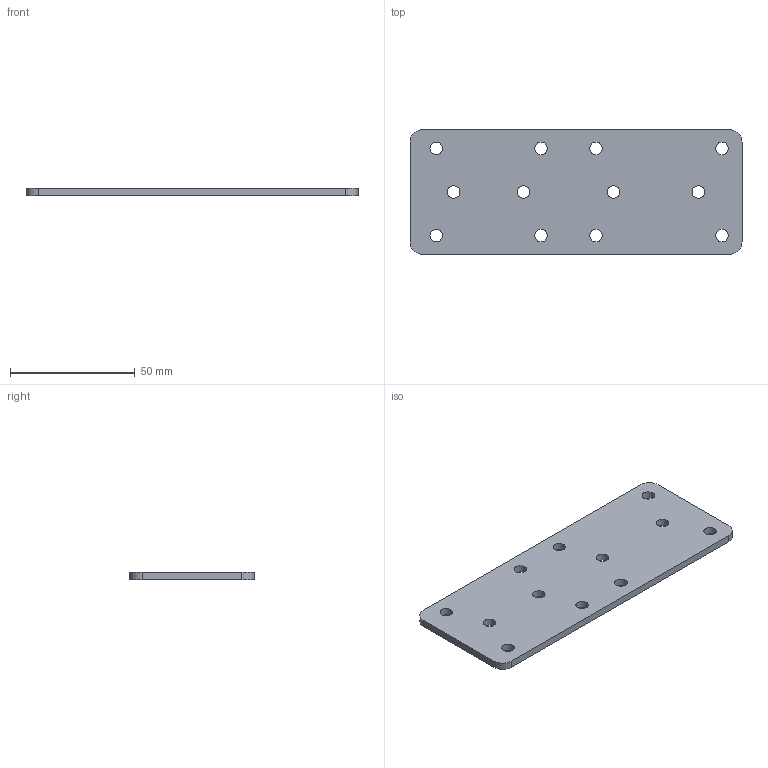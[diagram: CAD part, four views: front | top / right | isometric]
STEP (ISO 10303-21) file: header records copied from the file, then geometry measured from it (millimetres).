
FILE_DESCRIPTION(/* description */ (''),/* implementation_level */ '2;1');
FILE_NAME(/* name */ 'cuttingreference_hingepanel.stp',/* time_stamp */ '2025-07-18T20:08:27+02:00',/* author */ (''),/* organization */ (''),/* preprocessor_version */ 'ST-DEVELOPER v18.1',/* originating_system */ 'SIEMENS PLM Software NX 1980',/* authorisation */ '');
FILE_SCHEMA (('AUTOMOTIVE_DESIGN { 1 0 10303 214 3 1 1 1 }'));
Length unit declared in the file: millimetre
Products named in the file (1): cuttingreference_hingepanel
Bounding box: 133 x 50 x 3 mm (x, y, z)
Volume: 19178.8 mm3; surface area: 14423.6 mm2
Topology: 1 solids, 1 shells, 22 faces, 60 edges, 41 vertices
Faces by surface type: cylinder 16, plane 6
Full cylindrical faces by diameter (mm): 5 x12
Entity records: 749 total; most frequent: DIRECTION 128, CARTESIAN_POINT 113, ORIENTED_EDGE 96, EDGE_LOOP 58, AXIS2_PLACEMENT_3D 56, FACE_BOUND 50, EDGE_CURVE 48, VERTEX_POINT 40
